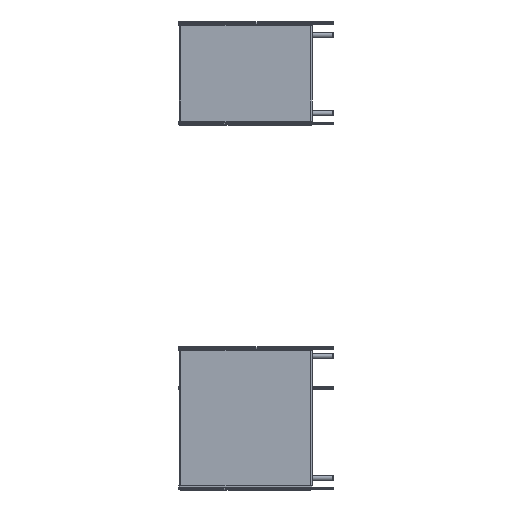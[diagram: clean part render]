
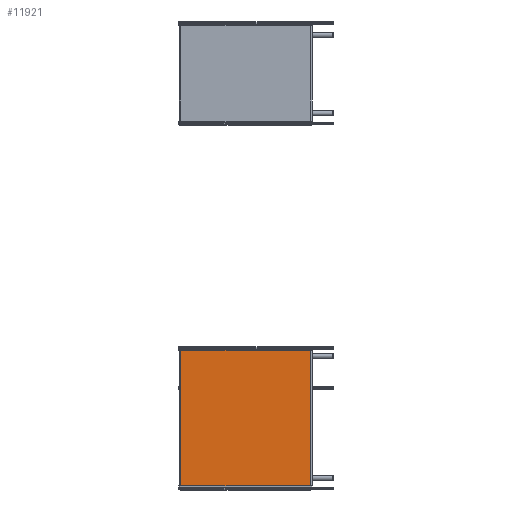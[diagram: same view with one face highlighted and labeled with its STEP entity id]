
A CAD part, left-side view. The second image highlights one B-rep face of the part: STEP entity #11921.
In plain terms, the highlighted planar face has unit normal (-1, 0, 0).
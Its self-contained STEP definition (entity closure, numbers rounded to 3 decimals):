
#767=LINE('',#19545,#1718);
#780=LINE('',#19600,#1731);
#790=LINE('',#19631,#1741);
#795=LINE('',#19640,#1746);
#1718=VECTOR('',#15279,10.);
#1731=VECTOR('',#15334,10.);
#1741=VECTOR('',#15370,13.);
#1746=VECTOR('',#15383,12.);
#2952=FACE_OUTER_BOUND('',#3759,.T.);
#3759=EDGE_LOOP('',(#8911,#8912,#8913,#8914));
#5399=VERTEX_POINT('',#19542);
#5400=VERTEX_POINT('',#19544);
#5420=VERTEX_POINT('',#19597);
#5421=VERTEX_POINT('',#19599);
#6668=EDGE_CURVE('',#5399,#5400,#767,.F.);
#6695=EDGE_CURVE('',#5420,#5421,#780,.F.);
#6711=EDGE_CURVE('',#5399,#5421,#790,.T.);
#6716=EDGE_CURVE('',#5420,#5400,#795,.T.);
#8911=ORIENTED_EDGE('',*,*,#6695,.F.);
#8912=ORIENTED_EDGE('',*,*,#6716,.T.);
#8913=ORIENTED_EDGE('',*,*,#6668,.F.);
#8914=ORIENTED_EDGE('',*,*,#6711,.T.);
#11381=PLANE('',#13067);
#11921=ADVANCED_FACE('',(#2952),#11381,.F.);
#13067=AXIS2_PLACEMENT_3D('',#19641,#15384,#15385);
#15279=DIRECTION('',(0.,-1.,0.));
#15334=DIRECTION('',(0.,1.,0.));
#15370=DIRECTION('',(0.,0.,1.));
#15383=DIRECTION('',(0.,0.,-1.));
#15384=DIRECTION('center_axis',(1.,0.,0.));
#15385=DIRECTION('ref_axis',(0.,0.,
-1.));
#19542=CARTESIAN_POINT('',(-3787.707,187.411,95.222));
#19544=CARTESIAN_POINT('',(-3787.707,1254.804,95.222));
#19545=CARTESIAN_POINT('',(-3787.707,990.762,95.222));
#19597=CARTESIAN_POINT('',(-3787.707,1254.804,1210.222));
#19599=CARTESIAN_POINT('',(-3787.707,187.411,1210.222));
#19600=CARTESIAN_POINT('',(-3787.707,1263.762,1210.222));
#19631=CARTESIAN_POINT('',(-3787.707,187.411,85.222));
#19640=CARTESIAN_POINT('',(-3787.707,1254.804,652.722));
#19641=CARTESIAN_POINT('Origin',(-3787.707,1260.762,1220.222));
